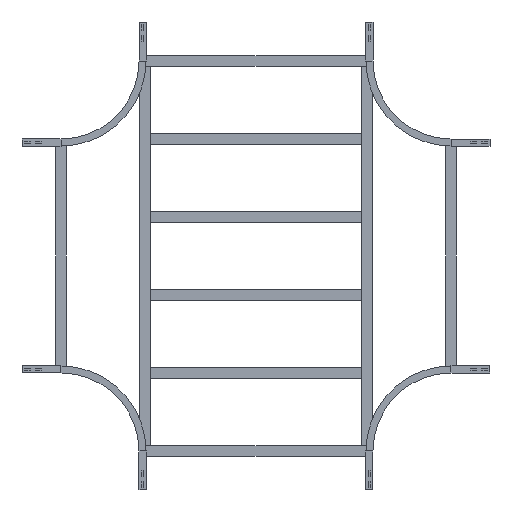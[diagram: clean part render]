
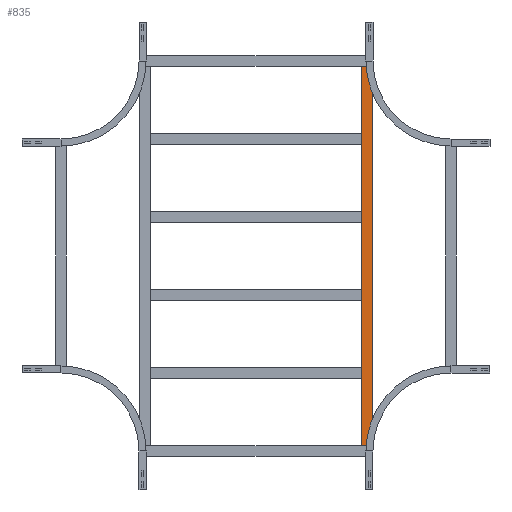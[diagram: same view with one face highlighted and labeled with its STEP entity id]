
A CAD part, front view. The second image highlights one B-rep face of the part: STEP entity #835.
In plain terms, the highlighted planar face has unit normal (0, -1, 0).
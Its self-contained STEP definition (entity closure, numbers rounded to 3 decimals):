
#43 = DIRECTION ( 'NONE',  ( 0., 0., -1. ) ) ;
#104 = EDGE_CURVE ( 'NONE', #441, #1978, #853, .T. ) ;
#117 = LINE ( 'NONE', #1317, #856 ) ;
#184 = CARTESIAN_POINT ( 'NONE',  ( 729.75, 0., -20.25 ) ) ;
#222 = CARTESIAN_POINT ( 'NONE',  ( 729.75, 0., 20.25 ) ) ;
#293 = PLANE ( 'NONE',  #1052 ) ;
#301 = CARTESIAN_POINT ( 'NONE',  ( 729.75, 0., 20.25 ) ) ;
#327 = CARTESIAN_POINT ( 'NONE',  ( 729.75, 0., 20.25 ) ) ;
#346 = VECTOR ( 'NONE', #43, 1000. ) ;
#441 = VERTEX_POINT ( 'NONE', #184 ) ;
#447 = FACE_OUTER_BOUND ( 'NONE', #617, .T. ) ;
#617 = EDGE_LOOP ( 'NONE', ( #1518, #982, #1002, #2051 ) ) ;
#823 = LINE ( 'NONE', #1929, #346 ) ;
#835 = ADVANCED_FACE ( 'NONE', ( #447 ), #293, .F. ) ;
#839 = CARTESIAN_POINT ( 'NONE',  ( -729.75, 0., 20.25 ) ) ;
#853 = LINE ( 'NONE', #2177, #1061 ) ;
#856 = VECTOR ( 'NONE', #1880, 1000. ) ;
#982 = ORIENTED_EDGE ( 'NONE', *, *, #104, .F. ) ;
#1002 = ORIENTED_EDGE ( 'NONE', *, *, #2141, .F. ) ;
#1031 = LINE ( 'NONE', #222, #1727 ) ;
#1042 = DIRECTION ( 'NONE',  ( -1., 0., 0. ) ) ;
#1052 = AXIS2_PLACEMENT_3D ( 'NONE', #301, #2214, #1064 ) ;
#1061 = VECTOR ( 'NONE', #1042, 1000. ) ;
#1064 = DIRECTION ( 'NONE',  ( 0., 0., 1. ) ) ;
#1317 = CARTESIAN_POINT ( 'NONE',  ( 729.75, 0., 20.25 ) ) ;
#1360 = DIRECTION ( 'NONE',  ( -1., 0., 0. ) ) ;
#1518 = ORIENTED_EDGE ( 'NONE', *, *, #2270, .T. ) ;
#1727 = VECTOR ( 'NONE', #1360, 1000. ) ;
#1736 = EDGE_CURVE ( 'NONE', #2140, #1960, #1031, .T. ) ;
#1880 = DIRECTION ( 'NONE',  ( 0., 0., -1. ) ) ;
#1929 = CARTESIAN_POINT ( 'NONE',  ( -729.75, 0., 20.25 ) ) ;
#1960 = VERTEX_POINT ( 'NONE', #839 ) ;
#1978 = VERTEX_POINT ( 'NONE', #2414 ) ;
#2051 = ORIENTED_EDGE ( 'NONE', *, *, #1736, .T. ) ;
#2140 = VERTEX_POINT ( 'NONE', #327 ) ;
#2141 = EDGE_CURVE ( 'NONE', #2140, #441, #117, .T. ) ;
#2177 = CARTESIAN_POINT ( 'NONE',  ( 729.75, 0., -20.25 ) ) ;
#2214 = DIRECTION ( 'NONE',  ( 0., 1., 0. ) ) ;
#2270 = EDGE_CURVE ( 'NONE', #1960, #1978, #823, .T. ) ;
#2414 = CARTESIAN_POINT ( 'NONE',  ( -729.75, 0., -20.25 ) ) ;
